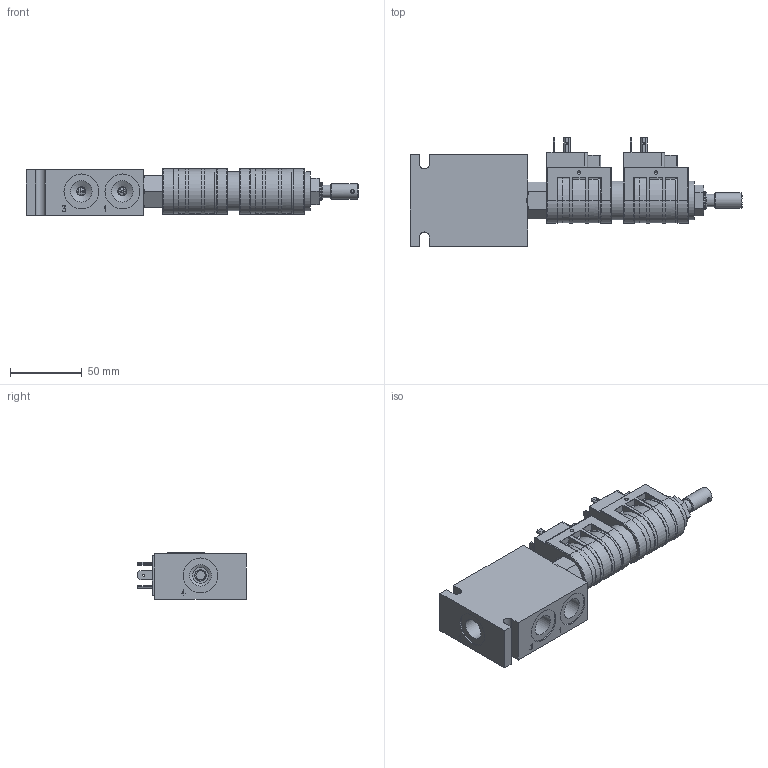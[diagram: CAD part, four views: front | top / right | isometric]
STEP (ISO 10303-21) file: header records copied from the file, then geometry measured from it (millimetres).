
FILE_DESCRIPTION( ( 'Unknown' ), '1' );
FILE_NAME( 'G:/Graphic Design/Graphic Design 2/Data Sheets/SOLENOID OPERATED VALVES/4_STEP/4W2P Spool/PQ-S4O0M-B4.stp', 'Unknown', ( 'Unknown' ), ( 'Unknown' ), 'PSStep 15.0.49', 'Unknown', ' ' );
FILE_SCHEMA( ( 'AUTOMOTIVE_DESIGN { 1 0 10303 214 1 1 1 1 }' ) );
Length unit declared in the file: millimetre
Products named in the file (27): D-PHC11; PHC_Body; PHC_Disc; PHC_HirschThread; PT-EL-HC-TerminalConnectors; pqs4o0p; PQS4O0P1; PQS4O0P2; PQS4O0P3; PQS4O0P4; PQS4O0P5; PQS4O0P6; PQS4O0P7; PQS4O0P8; PQS4O0P9; PQS4O0P10; PQS4O0P11; PQS4O0P12; PQS4O0P13; PQS4O0P14; PQS4O0P15; Assem1; Delta_1_2_nut1; B-DPQB4
Assembly tree (28 placements, depth 3):
  Assem1
    Delta_1_2_nut1
    B-DPQB4
    pqs4o0p
      PQS4O0P1
      PQS4O0P2
      PQS4O0P3
      PQS4O0P4
      PQS4O0P5
      PQS4O0P6
      PQS4O0P7
      PQS4O0P8
      PQS4O0P9
      PQS4O0P10
      PQS4O0P11
      PQS4O0P12
      PQS4O0P13
      PQS4O0P14
      PQS4O0P15
    D-PHC11  x2
      PHC_Body
      PHC_Disc
      PHC_HirschThread
      PT-EL-HC-TerminalConnectors
      PT-EL-HC-TerminalConnectors
      PT-EL-HC-TerminalConnectors
      PT-EL-HC-TerminalConnectors
Bounding box: 230.87 x 75.34 x 32.62 mm (x, y, z)
Volume: 275743.9 mm3; surface area: 76488.9 mm2
Topology: 33 solids, 33 shells, 938 faces, 2146 edges, 1308 vertices
Faces by surface type: cylinder 370, plane 319, cone 206, torus 31, sphere 12
Full cylindrical faces by diameter (mm): 0.2 x4, 0.5 x4, 1 x2, 1.321 x48, 1.5 x6, 2.337 x8, 4 x4, 6.3 x3, 6.35 x1, 7.95 x1, 8.744 x1, 9.881 x1, 9.931 x2, 10.643 x2, 10.922 x1, 10.998 x1, 11 x1, 11.151 x3, 11.182 x1, 11.455 x1, 11.506 x2, 12.192 x1, 12.573 x1, 12.624 x4, 12.675 x1, 12.725 x4, 12.751 x1, 13 x2, 13.05 x4, 13.056 x1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
Entity records: 25848 total; most frequent: CARTESIAN_POINT 6425, DIRECTION 2955, ORIENTED_EDGE 2492, AXIS2_PLACEMENT_3D 1299, EDGE_CURVE 1246, EDGE_LOOP 1133, VERTEX_POINT 926, FACE_OUTER_BOUND 865
